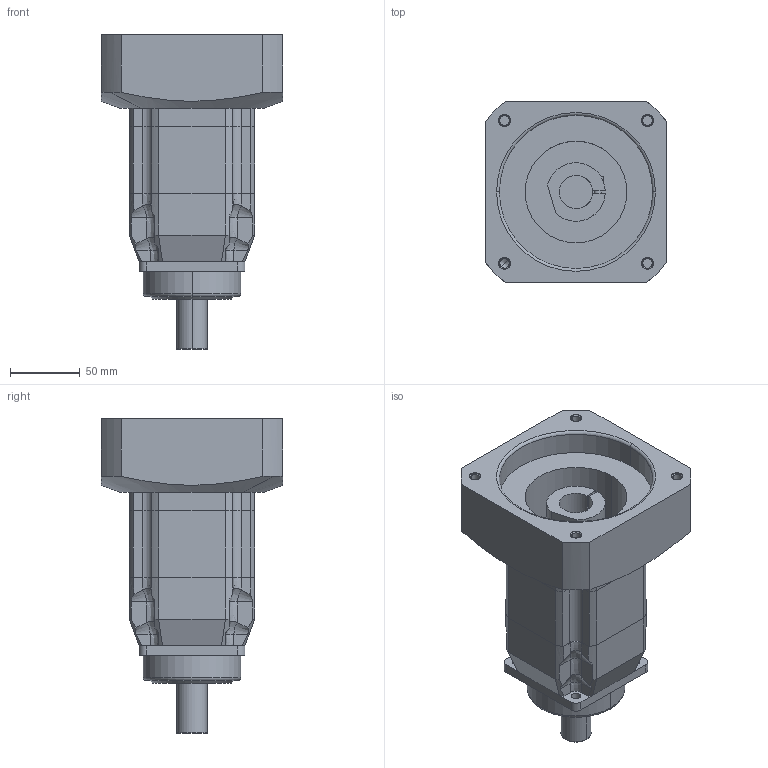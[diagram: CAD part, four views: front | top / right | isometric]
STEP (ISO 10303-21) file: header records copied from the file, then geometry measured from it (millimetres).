
FILE_DESCRIPTION((''),'2;1');
FILE_NAME('AF075A2-P0401301004_ASM','2020-01-08T',('D00080'),(''),'PRO/ENGINEER BY PARAMETRIC TECHNOLOGY CORPORATION, 2015240','PRO/ENGINEER BY PARAMETRIC TECHNOLOGY CORPORATION, 2015240','');
FILE_SCHEMA(('CONFIG_CONTROL_DESIGN'));
Length unit declared in the file: millimetre
Products named in the file (4): AF075A2; AN034A-1; P0401301004; AF075A2-P0401301004_ASM
Assembly tree (3 placements, depth 2):
  AF075A2-P0401301004_ASM
    AF075A2
    AN034A-1
    P0401301004
Bounding box: 130 x 130 x 226 mm (x, y, z)
Volume: 1352677.1 mm3; surface area: 150413 mm2
Topology: 3 solids, 8 shells, 269 faces, 667 edges, 418 vertices
Faces by surface type: plane 110, cylinder 89, bspline 44, cone 18, torus 8
Entity records: 11028 total; most frequent: CARTESIAN_POINT 4610, ORIENTED_EDGE 1304, DIRECTION 1301, EDGE_CURVE 663, AXIS2_PLACEMENT_3D 479, VERTEX_POINT 418, VECTOR 343, LINE 343
